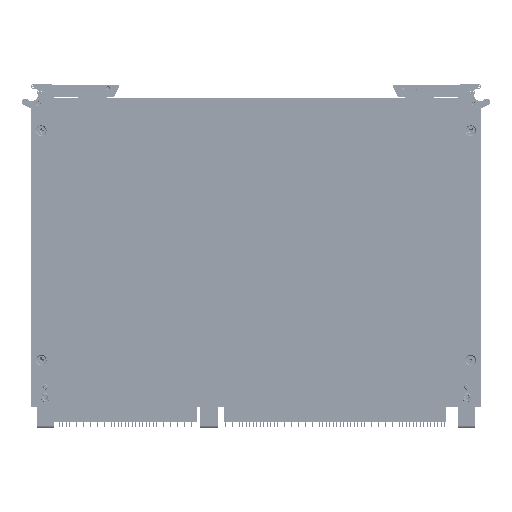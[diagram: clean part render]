
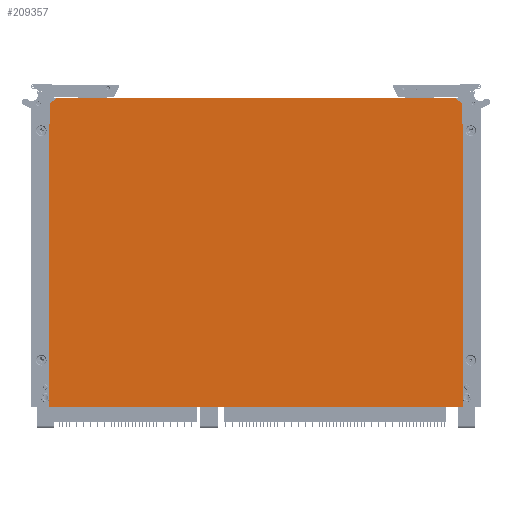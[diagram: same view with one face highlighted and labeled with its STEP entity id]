
A CAD part, left-side view. The second image highlights one B-rep face of the part: STEP entity #209357.
In plain terms, the highlighted planar face has unit normal (-1, 0, 0) as drawn and (0, 1, 0) by its records, which use the part's own axes.
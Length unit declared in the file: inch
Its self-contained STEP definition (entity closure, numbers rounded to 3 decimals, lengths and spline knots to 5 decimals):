
#3449 = ORIENTED_EDGE ( 'NONE', *, *, #55065, .F. ) ;
#5326 = CARTESIAN_POINT ( 'NONE',  ( -4.16791, 0.11, 6.20913 ) ) ;
#5385 = DIRECTION ( 'NONE',  ( 0., -1., 0. ) ) ;
#8762 = ORIENTED_EDGE ( 'NONE', *, *, #158147, .T. ) ;
#13628 = DIRECTION ( 'NONE',  ( -1., 0., 0. ) ) ;
#14156 = AXIS2_PLACEMENT_3D ( 'NONE', #27499, #70334, #219483 ) ;
#14427 = DIRECTION ( 'NONE',  ( 0., 0., 1. ) ) ;
#16128 = VERTEX_POINT ( 'NONE', #5326 ) ;
#21457 = EDGE_CURVE ( 'NONE', #16128, #170201, #48170, .T. ) ;
#25579 = VECTOR ( 'NONE', #83476, 39.37008 ) ;
#26217 = LINE ( 'NONE', #61895, #25579 ) ;
#27473 = VECTOR ( 'NONE', #153813, 39.37008 ) ;
#27499 = CARTESIAN_POINT ( 'NONE',  ( -4.221, 0.11, 6.29921 ) ) ;
#27742 = LINE ( 'NONE', #238547, #27473 ) ;
#30052 = VECTOR ( 'NONE', #246945, 39.37008 ) ;
#30282 = LINE ( 'NONE', #203941, #30052 ) ;
#36130 = VERTEX_POINT ( 'NONE', #55874 ) ;
#36855 = CARTESIAN_POINT ( 'NONE',  ( 4.02034, 0.11, 6.23921 ) ) ;
#37931 = EDGE_CURVE ( 'NONE', #216241, #58831, #274522, .T. ) ;
#41183 = CARTESIAN_POINT ( 'NONE',  ( 4.1935, 0.11, 6.15998 ) ) ;
#47144 = EDGE_CURVE ( 'NONE', #170201, #217624, #185839, .T. ) ;
#48170 = CIRCLE ( 'NONE', #164870, 0.06 ) ;
#50120 = CARTESIAN_POINT ( 'NONE',  ( 4.16791, 0.11, 6.20913 ) ) ;
#50684 = CARTESIAN_POINT ( 'NONE',  ( -4.16791, 0.11, 6.20913 ) ) ;
#53126 = ORIENTED_EDGE ( 'NONE', *, *, #37931, .T. ) ;
#54034 = ORIENTED_EDGE ( 'NONE', *, *, #164512, .F. ) ;
#54087 = DIRECTION ( 'NONE',  ( 0., 0., -1. ) ) ;
#55065 = EDGE_CURVE ( 'NONE', #156351, #58831, #87360, .T. ) ;
#55874 = CARTESIAN_POINT ( 'NONE',  ( -4.221, 0.11, 5.76632 ) ) ;
#57011 = ORIENTED_EDGE ( 'NONE', *, *, #218564, .F. ) ;
#58222 = DIRECTION ( 'NONE',  ( 0., 0., -1. ) ) ;
#58266 = CIRCLE ( 'NONE', #136265, 0.03 ) ;
#58368 = ORIENTED_EDGE ( 'NONE', *, *, #147731, .F. ) ;
#58831 = VERTEX_POINT ( 'NONE', #266759 ) ;
#60662 = VERTEX_POINT ( 'NONE', #251740 ) ;
#61895 = CARTESIAN_POINT ( 'NONE',  ( 4.1935, 0.11, 5.79621 ) ) ;
#70334 = DIRECTION ( 'NONE',  ( 0., -1., 0. ) ) ;
#73428 = EDGE_CURVE ( 'NONE', #60662, #240954, #30282, .T. ) ;
#73553 = VERTEX_POINT ( 'NONE', #187173 ) ;
#75557 = CARTESIAN_POINT ( 'NONE',  ( -4.1335, 0.11, 6.15998 ) ) ;
#83476 = DIRECTION ( 'NONE',  ( 0., 0., 1. ) ) ;
#86360 = DIRECTION ( 'NONE',  ( 0., 1., 0. ) ) ;
#87051 = VECTOR ( 'NONE', #13628, 39.37008 ) ;
#87360 = LINE ( 'NONE', #205399, #87051 ) ;
#96991 = DIRECTION ( 'NONE',  ( 0., 0., -1. ) ) ;
#97378 = EDGE_CURVE ( 'NONE', #216241, #16128, #232262, .T. ) ;
#97579 = ORIENTED_EDGE ( 'NONE', *, *, #73428, .T. ) ;
#100788 = ORIENTED_EDGE ( 'NONE', *, *, #150132, .T. ) ;
#110618 = ORIENTED_EDGE ( 'NONE', *, *, #211986, .F. ) ;
#119455 = VERTEX_POINT ( 'NONE', #50120 ) ;
#119901 = CARTESIAN_POINT ( 'NONE',  ( -4.1935, 0.11, 6.15998 ) ) ;
#121769 = CARTESIAN_POINT ( 'NONE',  ( -4.2235, 0.11, 5.79621 ) ) ;
#124110 = EDGE_CURVE ( 'NONE', #217624, #36130, #58266, .T. ) ;
#133091 = CARTESIAN_POINT ( 'NONE',  ( 4.1335, 0.11, 6.15998 ) ) ;
#133878 = PLANE ( 'NONE',  #14156 ) ;
#136265 = AXIS2_PLACEMENT_3D ( 'NONE', #121769, #270822, #143156 ) ;
#140249 = FACE_OUTER_BOUND ( 'NONE', #224348, .T. ) ;
#142196 = DIRECTION ( 'NONE',  ( 0., 1., 0. ) ) ;
#142228 = ORIENTED_EDGE ( 'NONE', *, *, #124110, .F. ) ;
#143156 = DIRECTION ( 'NONE',  ( 0., 0., -1. ) ) ;
#146643 = VERTEX_POINT ( 'NONE', #264825 ) ;
#147731 = EDGE_CURVE ( 'NONE', #73553, #165216, #26217, .T. ) ;
#148101 = DIRECTION ( 'NONE',  ( -1., 0., 0. ) ) ;
#150132 = EDGE_CURVE ( 'NONE', #240954, #146643, #153952, .T. ) ;
#150877 = ORIENTED_EDGE ( 'NONE', *, *, #47144, .F. ) ;
#152584 = VECTOR ( 'NONE', #148101, 39.37008 ) ;
#153813 = DIRECTION ( 'NONE',  ( 0., 0., -1. ) ) ;
#153952 = LINE ( 'NONE', #254285, #152584 ) ;
#154564 = DIRECTION ( 'NONE',  ( 0., 0., 1. ) ) ;
#156351 = VERTEX_POINT ( 'NONE', #197222 ) ;
#156882 = CIRCLE ( 'NONE', #222920, 0.06 ) ;
#158147 = EDGE_CURVE ( 'NONE', #156351, #200684, #268320, .T. ) ;
#162697 = CARTESIAN_POINT ( 'NONE',  ( 4.16791, 0.11, 6.20913 ) ) ;
#164512 = EDGE_CURVE ( 'NONE', #165216, #119455, #156882, .T. ) ;
#164870 = AXIS2_PLACEMENT_3D ( 'NONE', #75557, #224724, #96991 ) ;
#165216 = VERTEX_POINT ( 'NONE', #41183 ) ;
#166620 = ORIENTED_EDGE ( 'NONE', *, *, #21457, .F. ) ;
#170201 = VERTEX_POINT ( 'NONE', #119901 ) ;
#174911 = CARTESIAN_POINT ( 'NONE',  ( -4.05476, 0.11, 6.28836 ) ) ;
#181757 = CARTESIAN_POINT ( 'NONE',  ( -4.1935, 0.11, 5.79621 ) ) ;
#185839 = LINE ( 'NONE', #181757, #186961 ) ;
#185937 = DIRECTION ( 'NONE',  ( 0., 1., 0. ) ) ;
#186961 = VECTOR ( 'NONE', #54087, 39.37008 ) ;
#187173 = CARTESIAN_POINT ( 'NONE',  ( 4.1935, 0.11, 5.79621 ) ) ;
#187615 = AXIS2_PLACEMENT_3D ( 'NONE', #213929, #86360, #235489 ) ;
#197222 = CARTESIAN_POINT ( 'NONE',  ( 4.02034, 0.11, 6.29921 ) ) ;
#199647 = DIRECTION ( 'NONE',  ( -0.819, 0., -0.574 ) ) ;
#200684 = VERTEX_POINT ( 'NONE', #255093 ) ;
#203941 = CARTESIAN_POINT ( 'NONE',  ( 4.221, 0.11, 6.29921 ) ) ;
#205399 = CARTESIAN_POINT ( 'NONE',  ( -4.221, 0.11, 6.29921 ) ) ;
#209357 = ADVANCED_FACE ( 'NONE', ( #140249 ), #133878, .F. ) ;
#211986 = EDGE_CURVE ( 'NONE', #36130, #146643, #27742, .T. ) ;
#212612 = EDGE_CURVE ( 'NONE', #119455, #200684, #267507, .T. ) ;
#213929 = CARTESIAN_POINT ( 'NONE',  ( -4.02034, 0.11, 6.23921 ) ) ;
#216241 = VERTEX_POINT ( 'NONE', #174911 ) ;
#216842 = CARTESIAN_POINT ( 'NONE',  ( -4.1935, 0.11, 5.79621 ) ) ;
#217624 = VERTEX_POINT ( 'NONE', #216842 ) ;
#218564 = EDGE_CURVE ( 'NONE', #60662, #73553, #245447, .T. ) ;
#219483 = DIRECTION ( 'NONE',  ( 0., 0., -1. ) ) ;
#222920 = AXIS2_PLACEMENT_3D ( 'NONE', #133091, #5385, #154564 ) ;
#224348 = EDGE_LOOP ( 'NONE', ( #243780, #53126, #3449, #8762, #247625, #54034, #58368, #57011, #97579, #100788, #110618, #142228, #150877, #166620 ) ) ;
#224724 = DIRECTION ( 'NONE',  ( 0., -1., 0. ) ) ;
#232262 = LINE ( 'NONE', #50684, #232534 ) ;
#232534 = VECTOR ( 'NONE', #199647, 39.37008 ) ;
#235489 = DIRECTION ( 'NONE',  ( 0., 0., -1. ) ) ;
#238547 = CARTESIAN_POINT ( 'NONE',  ( -4.221, 0.11, 6.29921 ) ) ;
#240954 = VERTEX_POINT ( 'NONE', #272564 ) ;
#243780 = ORIENTED_EDGE ( 'NONE', *, *, #97378, .F. ) ;
#245012 = AXIS2_PLACEMENT_3D ( 'NONE', #36855, #185937, #58222 ) ;
#245447 = CIRCLE ( 'NONE', #253327, 0.03 ) ;
#246945 = DIRECTION ( 'NONE',  ( 0., 0., -1. ) ) ;
#247625 = ORIENTED_EDGE ( 'NONE', *, *, #212612, .F. ) ;
#251740 = CARTESIAN_POINT ( 'NONE',  ( 4.221, 0.11, 5.76632 ) ) ;
#253327 = AXIS2_PLACEMENT_3D ( 'NONE', #269828, #142196, #14427 ) ;
#254285 = CARTESIAN_POINT ( 'NONE',  ( -4.221, 0.11, 0. ) ) ;
#255093 = CARTESIAN_POINT ( 'NONE',  ( 4.05476, 0.11, 6.28836 ) ) ;
#264825 = CARTESIAN_POINT ( 'NONE',  ( -4.221, 0.11, 0. ) ) ;
#265908 = VECTOR ( 'NONE', #268847, 39.37008 ) ;
#266759 = CARTESIAN_POINT ( 'NONE',  ( -4.02034, 0.11, 6.29921 ) ) ;
#267507 = LINE ( 'NONE', #162697, #265908 ) ;
#268320 = CIRCLE ( 'NONE', #245012, 0.06 ) ;
#268847 = DIRECTION ( 'NONE',  ( -0.819, 0., 0.574 ) ) ;
#269828 = CARTESIAN_POINT ( 'NONE',  ( 4.2235, 0.11, 5.79621 ) ) ;
#270822 = DIRECTION ( 'NONE',  ( 0., 1., 0. ) ) ;
#272564 = CARTESIAN_POINT ( 'NONE',  ( 4.221, 0.11, 0. ) ) ;
#274522 = CIRCLE ( 'NONE', #187615, 0.06 ) ;
